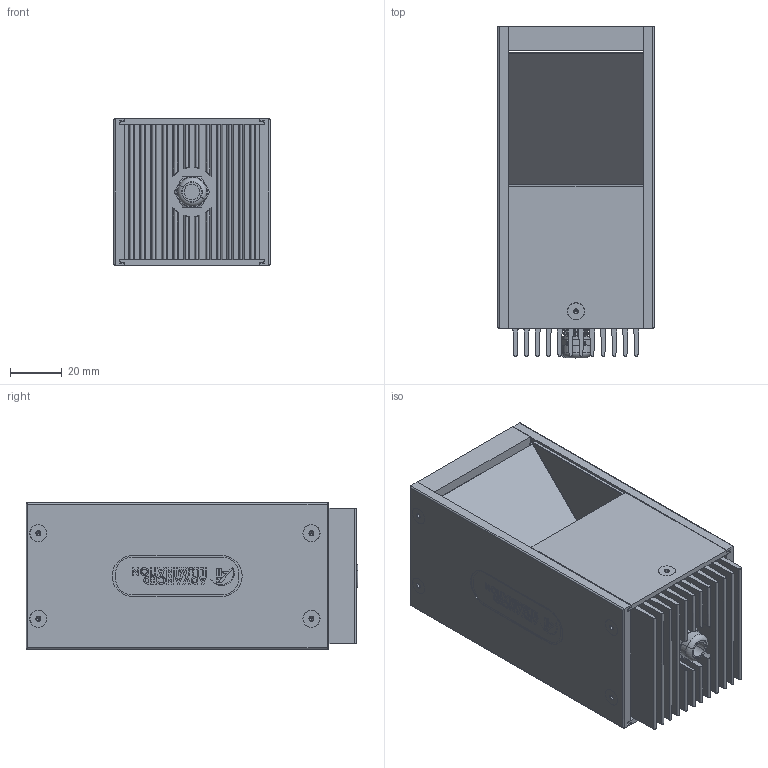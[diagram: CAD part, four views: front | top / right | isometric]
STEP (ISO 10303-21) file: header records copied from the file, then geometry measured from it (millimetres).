
FILE_DESCRIPTION (( 'STEP AP214' ), '1' );
FILE_NAME ('DL225-050_Default.stp', '2021-05-03T19:23:53', ( '' ), ( '' ), 'SwSTEP 2.0', 'SolidWorks 2018', '' );
FILE_SCHEMA (( 'AUTOMOTIVE_DESIGN' ));
Length unit declared in the file: inch
Products named in the file (20): 095498_Default<As Machined>; PHTHF-256x.1875; 090595; 090591; 091053; 091826_Default<As Machined>; 091064_Model_Dome Fittings_Thread Type and Size(Dome)_M10 x 1.5_Hazardous Location-Explosive Proof(ATEX and EExe Versions)_No_; 091703; 090154-02; FH-440X5_16; 091813_Default<As Machined>; 095499_Default<As Machined>; 5413-54; 091708_Default<As Machined>; 042-03-006; 095502; 090592; 091707_Default<As Machined>; DL225-050_Default
Assembly tree (39 placements, depth 3):
  DL225-050_Default
    095498_Default<As Machined>
    095499_Default<As Machined>
    5413-54
    PHTHF-256x.1875
    091064_Model_Dome Fittings_Thread Type and Size(Dome)_M10 x 1.5_Hazardous Location-Explosive Proof(ATEX and EExe Versions)_No_
    095502  x2
    FH-440X5_16  x10
    091813_Default<As Machined>  x2
    091708_Default<As Machined>  x4
    090595
    090154-02  x3
    090592
    042-03-006
    090591
    091053  x2
      091053
    091703  x2
    091826_Default<As Machined>  x2
    091707_Default<As Machined>  x2
Bounding box: 60.4 x 128.27 x 56.49 mm (x, y, z)
Volume: 152376.5 mm3; surface area: 141664.3 mm2
Topology: 39 solids, 39 shells, 1979 faces, 4971 edges, 3154 vertices
Faces by surface type: plane 958, cylinder 602, cone 259, bspline 136, torus 24
Entity records: 53841 total; most frequent: CARTESIAN_POINT 21741, ORIENTED_EDGE 5660, DIRECTION 4770, EDGE_CURVE 2830, VERTEX_POINT 1828, LINE 1618, VECTOR 1618, AXIS2_PLACEMENT_3D 1576
